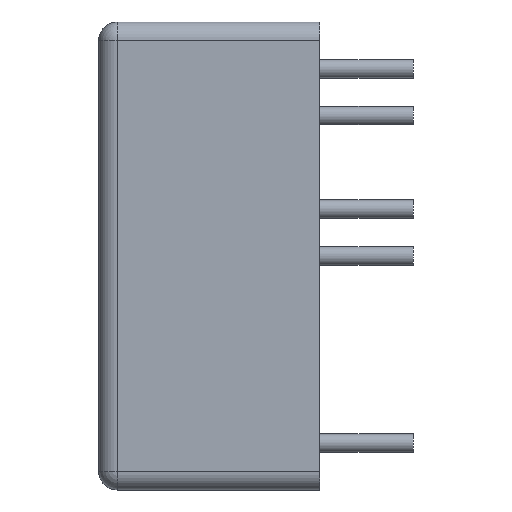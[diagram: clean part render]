
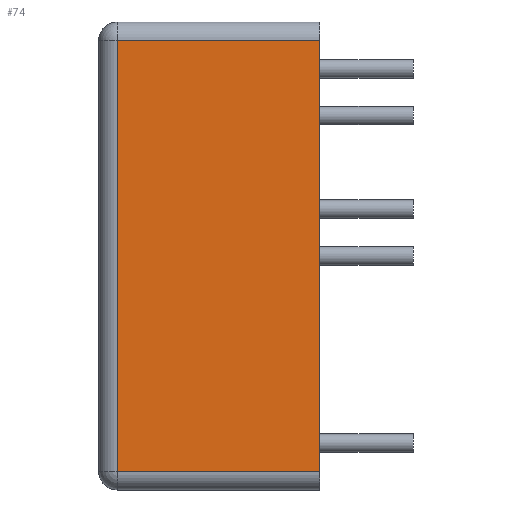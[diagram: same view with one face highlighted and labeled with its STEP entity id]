
A CAD part, left-side view. The second image highlights one B-rep face of the part: STEP entity #74.
In plain terms, the highlighted planar face has unit normal (-1, 0, 0).
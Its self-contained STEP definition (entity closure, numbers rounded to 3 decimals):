
#45 = CARTESIAN_POINT ( 'NONE',  ( -25.4, 11., -11.7 ) ) ;
#73 = DIRECTION ( 'NONE',  ( 1., 0., 0. ) ) ;
#74 = ADVANCED_FACE ( 'NONE', ( #298 ), #451, .F. ) ;
#100 = CARTESIAN_POINT ( 'NONE',  ( -25.4, 11., -11.7 ) ) ;
#163 = CARTESIAN_POINT ( 'NONE',  ( -25.4, 12., -11.7 ) ) ;
#184 = AXIS2_PLACEMENT_3D ( 'NONE', #807, #73, #521 ) ;
#186 = CARTESIAN_POINT ( 'NONE',  ( -25.4, 11., 11.7 ) ) ;
#197 = EDGE_LOOP ( 'NONE', ( #702, #410, #763, #268 ) ) ;
#201 = LINE ( 'NONE', #45, #387 ) ;
#251 = DIRECTION ( 'NONE',  ( 0., -1., 0. ) ) ;
#268 = ORIENTED_EDGE ( 'NONE', *, *, #813, .T. ) ;
#298 = FACE_OUTER_BOUND ( 'NONE', #197, .T. ) ;
#323 = LINE ( 'NONE', #453, #695 ) ;
#330 = VERTEX_POINT ( 'NONE', #186 ) ;
#344 = LINE ( 'NONE', #773, #652 ) ;
#362 = VERTEX_POINT ( 'NONE', #100 ) ;
#387 = VECTOR ( 'NONE', #407, 1000. ) ;
#391 = CARTESIAN_POINT ( 'NONE',  ( -25.4, 0., 11.7 ) ) ;
#402 = CARTESIAN_POINT ( 'NONE',  ( -25.4, 0., -11.7 ) ) ;
#407 = DIRECTION ( 'NONE',  ( 0., 0., -1. ) ) ;
#410 = ORIENTED_EDGE ( 'NONE', *, *, #825, .T. ) ;
#451 = PLANE ( 'NONE',  #184 ) ;
#453 = CARTESIAN_POINT ( 'NONE',  ( -25.4, 12., 11.7 ) ) ;
#463 = VECTOR ( 'NONE', #251, 1000. ) ;
#521 = DIRECTION ( 'NONE',  ( 0., 0., -1. ) ) ;
#541 = LINE ( 'NONE', #163, #463 ) ;
#622 = EDGE_CURVE ( 'NONE', #362, #905, #541, .T. ) ;
#638 = DIRECTION ( 'NONE',  ( 0., 0., 1. ) ) ;
#652 = VECTOR ( 'NONE', #638, 1000. ) ;
#695 = VECTOR ( 'NONE', #903, 1000. ) ;
#702 = ORIENTED_EDGE ( 'NONE', *, *, #741, .T. ) ;
#741 = EDGE_CURVE ( 'NONE', #798, #330, #323, .T. ) ;
#763 = ORIENTED_EDGE ( 'NONE', *, *, #622, .T. ) ;
#773 = CARTESIAN_POINT ( 'NONE',  ( -25.4, 0., -12.7 ) ) ;
#798 = VERTEX_POINT ( 'NONE', #391 ) ;
#807 = CARTESIAN_POINT ( 'NONE',  ( -25.4, 12., -12.7 ) ) ;
#813 = EDGE_CURVE ( 'NONE', #905, #798, #344, .T. ) ;
#825 = EDGE_CURVE ( 'NONE', #330, #362, #201, .T. ) ;
#903 = DIRECTION ( 'NONE',  ( 0., 1., 0. ) ) ;
#905 = VERTEX_POINT ( 'NONE', #402 ) ;
